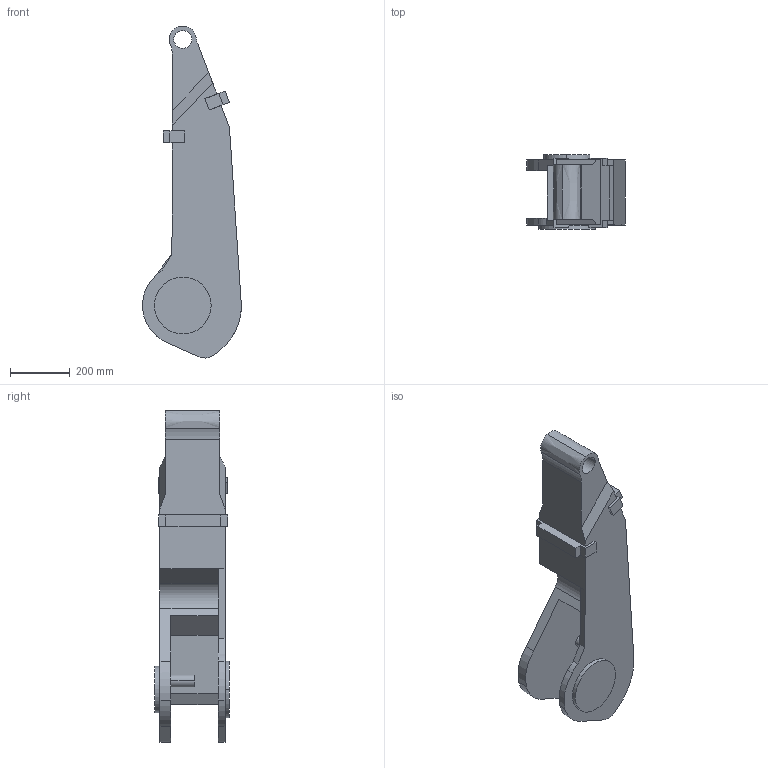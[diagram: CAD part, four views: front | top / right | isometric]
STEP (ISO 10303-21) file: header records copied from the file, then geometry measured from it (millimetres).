
FILE_DESCRIPTION (( 'STEP AP214' ), '1' );
FILE_NAME ('IRB4400_60_m2000_rev1_01-3.STEP', '2001-11-21T06:43:54', ( 'Jonas Eriksson' ), ( 'Evotech Engineering AB' ), 'SwSTEP 2.0', 'SolidWorks 2001287', '' );
FILE_SCHEMA (( 'AUTOMOTIVE_DESIGN' ));
Length unit declared in the file: millimetre
Products named in the file (1): IRB4400_60_m2000_rev1_01-3
Bounding box: 330.56 x 248.5 x 1110.72 mm (x, y, z)
Volume: 30983877.8 mm3; surface area: 1200891.2 mm2
Topology: 1 solids, 1 shells, 72 faces, 198 edges, 131 vertices
Faces by surface type: plane 47, cylinder 14, bspline 11
Entity records: 2436 total; most frequent: CARTESIAN_POINT 567, ORIENTED_EDGE 396, DIRECTION 372, EDGE_CURVE 198, LINE 148, VECTOR 148, VERTEX_POINT 131, AXIS2_PLACEMENT_3D 112
